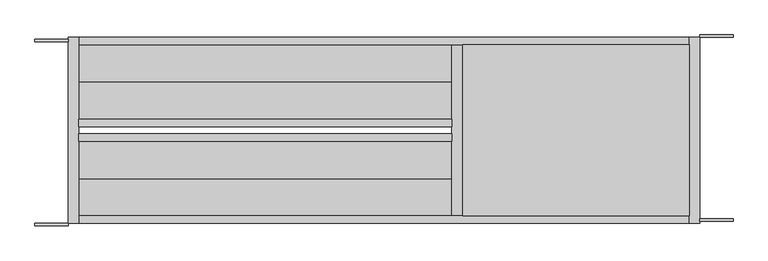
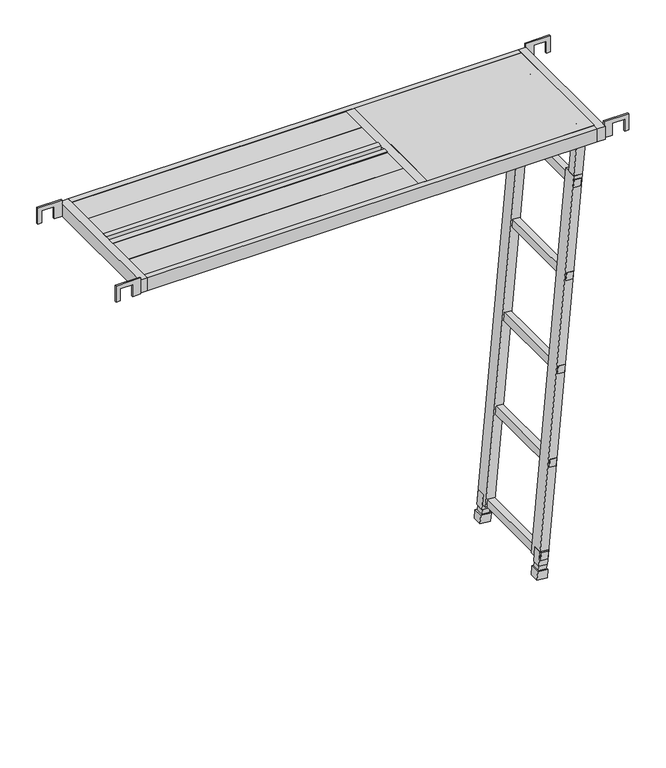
"""IFC4 building model written with IfcOpenShell, lengths in millimetres: proxy geometry, AK_アルミハッチ式布板HF-518HT(タラップ式)_軽 : AK_アルミハッチ式布板HF-518HT(タラップ式)_軽."""

from ifc_helpers import new_model, si_unit, point, frame, origin, place, context, project, spatial, polyline, circle_curve, ellipse_curve, trimmed, outline, extrude, source, transform, mapped, element, save
from ifc_brep_helpers import plane_surface, cylinder_surface, revolved_surface, advanced_brep


def generic_models_8c229552(model_context):
    return source(origin(), model_context, "Body", "SolidModel", [
        extrude(outline(polyline([(37.5, 1762.5), (-24.1, 1762.5), (-24.1, 1792.0), (22.0, 1792.0), (22.0, 1837.0), (-24.1, 1837.0), (-24.1, 1852.0), (37.5, 1852.0), (37.5, 1762.5)])), frame((0.0, 12.0, 0.0), z_axis=(0.0, 1.0, 0.0), x_axis=(0.0, 0.0, 1.0)), (0.0, 0.0, 1.0), 6.0),
        extrude(outline(polyline([(37.5, 1762.5), (-24.1, 1762.5), (-24.1, 1792.0), (22.0, 1792.0), (22.0, 1837.0), (-24.1, 1837.0), (-24.1, 1852.0), (37.5, 1852.0), (37.5, 1762.5)])), frame((0.0, 506.0, 0.0), z_axis=(0.0, 1.0, 0.0), x_axis=(0.0, 0.0, 1.0)), (0.0, 0.0, 1.0), 6.0),
        extrude(outline(polyline([(37.5, -23.0), (-24.1, -23.0), (-24.1, -8.0), (22.0, -8.0), (22.0, 37.0), (-24.1, 37.0), (-24.1, 66.5), (37.5, 66.5), (37.5, -23.0)])), frame((0.0, 0.0, 0.0), z_axis=(0.0, 1.0, 0.0), x_axis=(0.0, 0.0, 1.0)), (0.0, 0.0, 1.0), 6.0),
        extrude(outline(polyline([(37.5, -23.0), (-24.1, -23.0), (-24.1, -8.0), (22.0, -8.0), (22.0, 37.0), (-24.1, 37.0), (-24.1, 66.5), (37.5, 66.5), (37.5, -23.0)])), frame((0.0, 494.0, 0.0), z_axis=(0.0, 1.0, 0.0), x_axis=(0.0, 0.0, 1.0)), (0.0, 0.0, 1.0), 6.0),
        advanced_brep(
        [(1715.4537998, 26.0, 0.0), (1707.4537998, 26.0, 0.0), (1707.4537998, 90.1689973, 0.0), (1715.4537998, 90.1689973, 0.0), (1727.8086099, 102.5238074, 0.0), (1727.8086099, 110.5238074, 0.0), (1742.8086099, 102.5238074, 0.0), (1742.8086099, 110.5238074, 0.0)],
        [
            (0, 1, circle_curve(frame((1711.4537998, 26.0, 0.0), z_axis=(0.0, -1.0, 0.0), x_axis=(-1.0, 0.0, 0.0)), 4.0)),
            (1, 0, circle_curve(frame((1711.4537998, 26.0, 0.0), z_axis=(0.0, -1.0, 0.0), x_axis=(-1.0, 0.0, 0.0)), 4.0)),
            (1, 2),
            (2, 3, circle_curve(frame((1711.4537998, 90.1689973, 0.0), z_axis=(0.0, -1.0, 0.0), x_axis=(-1.0, 0.0, 0.0)), 4.0)),
            (3, 0),
            (3, 2, circle_curve(frame((1711.4537998, 90.1689973, 0.0), z_axis=(0.0, -1.0, 0.0), x_axis=(-1.0, 0.0, 0.0)), 4.0)),
            (4, 3, circle_curve(frame((1727.8086099, 90.1689973, 0.0), z_axis=(0.0, 0.0, 1.0), x_axis=(-1.0, 0.0, 0.0)), 12.35481)),
            (2, 5, circle_curve(frame((1727.8086099, 90.1689973, 0.0), z_axis=(0.0, 0.0, -1.0), x_axis=(-1.0, 0.0, 0.0)), 20.35481)),
            (5, 4, circle_curve(frame((1727.8086099, 106.5238074, 0.0), z_axis=(-1.0, 0.0, 0.0), x_axis=(0.0, 1.0, 0.0)), 4.0)),
            (4, 5, circle_curve(frame((1727.8086099, 106.5238074, 0.0), z_axis=(-1.0, 0.0, 0.0), x_axis=(0.0, 1.0, 0.0)), 4.0)),
            (6, 7, circle_curve(frame((1742.8086099, 106.5238074, 0.0), z_axis=(1.0, 0.0, 0.0), x_axis=(0.0, 1.0, 0.0)), 4.0)),
            (7, 6, circle_curve(frame((1742.8086099, 106.5238074, 0.0), z_axis=(1.0, 0.0, 0.0), x_axis=(0.0, 1.0, 0.0)), 4.0)),
            (5, 7),
            (6, 4),
        ],
        [
            plane_surface(frame((1711.4537998, 26.0, 0.0), z_axis=(0.0, -1.0, 0.0), x_axis=(0.0, 0.0, 1.0))),
            cylinder_surface(frame((1711.4537998, 26.0, 0.0), z_axis=(0.0, -1.0, 0.0), x_axis=(-1.0, 0.0, 0.0)), 4.0),
            revolved_surface(trimmed(ellipse_curve(frame((1711.4537998, 90.1689973, 0.0), z_axis=(0.0, -1.0, 0.0), x_axis=(-1.0, 0.0, 0.0)), 4.0, 4.0), [point((1707.4537998, 90.1689973, 0.0))], [point((1715.4537998, 90.1689973, 0.0))], True, "CARTESIAN"), (1727.8086099, 90.1689973, 0.0), (0.0, 0.0, -1.0)),
            revolved_surface(trimmed(ellipse_curve(frame((1711.4537998, 90.1689973, 0.0), z_axis=(0.0, -1.0, 0.0), x_axis=(-1.0, 0.0, 0.0)), 4.0, 4.0), [point((1715.4537998, 90.1689973, 0.0))], [point((1707.4537998, 90.1689973, 0.0))], True, "CARTESIAN"), (1727.8086099, 90.1689973, 0.0), (0.0, 0.0, -1.0)),
            plane_surface(frame((1742.8086099, 106.5238074, 0.0), z_axis=(1.0, 0.0, 0.0), x_axis=(0.0, 0.0, 1.0))),
            cylinder_surface(frame((1727.8086099, 106.5238074, 0.0), z_axis=(-1.0, 0.0, 0.0), x_axis=(0.0, 1.0, 0.0)), 4.0),
        ],
        [
            (0, [[1, 2]]),
            (1, [[-2, 3, 4, 5]]),
            (1, [[-1, -5, 6, -3]]),
            (2, [[7, -4, 8, 9]]),
            (3, [[-8, -6, -7, 10]]),
            (4, [[11, 12]]),
            (5, [[-9, 13, -11, 14]]),
            (5, [[-10, -14, -12, -13]]),
        ],
    ),
        advanced_brep(
        [(1707.4537998, 486.0, 0.0), (1715.4537998, 486.0, 0.0), (1707.4537998, 421.8310027, 0.0), (1715.4537998, 421.8310027, 0.0), (1727.8086099, 409.4761926, 0.0), (1727.8086099, 401.4761926, 0.0), (1742.8086099, 401.4761926, 0.0), (1742.8086099, 409.4761926, 0.0)],
        [
            (0, 1, circle_curve(frame((1711.4537998, 486.0, 0.0), z_axis=(0.0, 1.0, 0.0), x_axis=(1.0, 0.0, 0.0)), 4.0)),
            (1, 0, circle_curve(frame((1711.4537998, 486.0, 0.0), z_axis=(0.0, 1.0, 0.0), x_axis=(1.0, 0.0, 0.0)), 4.0)),
            (0, 2),
            (2, 3, circle_curve(frame((1711.4537998, 421.8310027, 0.0), z_axis=(0.0, 1.0, 0.0), x_axis=(1.0, 0.0, 0.0)), 4.0)),
            (3, 1),
            (3, 2, circle_curve(frame((1711.4537998, 421.8310027, 0.0), z_axis=(0.0, 1.0, 0.0), x_axis=(1.0, 0.0, 0.0)), 4.0)),
            (4, 3, circle_curve(frame((1727.8086099, 421.8310027, 0.0), z_axis=(0.0, 0.0, -1.0), x_axis=(-1.0, 0.0, 0.0)), 12.35481)),
            (2, 5, circle_curve(frame((1727.8086099, 421.8310027, 0.0), z_axis=(0.0, 0.0, 1.0), x_axis=(-1.0, 0.0, 0.0)), 20.35481)),
            (5, 4, circle_curve(frame((1727.8086099, 405.4761926, 0.0), z_axis=(-1.0, 0.0, 0.0), x_axis=(0.0, 1.0, 0.0)), 4.0)),
            (4, 5, circle_curve(frame((1727.8086099, 405.4761926, 0.0), z_axis=(-1.0, 0.0, 0.0), x_axis=(0.0, 1.0, 0.0)), 4.0)),
            (6, 7, circle_curve(frame((1742.8086099, 405.4761926, 0.0), z_axis=(1.0, 0.0, 0.0), x_axis=(0.0, 1.0, 0.0)), 4.0)),
            (7, 6, circle_curve(frame((1742.8086099, 405.4761926, 0.0), z_axis=(1.0, 0.0, 0.0), x_axis=(0.0, 1.0, 0.0)), 4.0)),
            (5, 6),
            (7, 4),
        ],
        [
            plane_surface(frame((1711.4537998, 486.0, 0.0), z_axis=(0.0, 1.0, 0.0), x_axis=(0.0, 0.0, 1.0))),
            cylinder_surface(frame((1711.4537998, 486.0, 0.0), z_axis=(0.0, 1.0, 0.0), x_axis=(1.0, 0.0, 0.0)), 4.0),
            revolved_surface(trimmed(ellipse_curve(frame((1711.4537998, 421.8310027, 0.0), z_axis=(0.0, 1.0, 0.0), x_axis=(1.0, 0.0, 0.0)), 4.0, 4.0), [point((1707.4537998, 421.8310027, 0.0))], [point((1715.4537998, 421.8310027, 0.0))], True, "CARTESIAN"), (1727.8086099, 421.8310027, 0.0), (0.0, 0.0, 1.0)),
            revolved_surface(trimmed(ellipse_curve(frame((1711.4537998, 421.8310027, 0.0), z_axis=(0.0, 1.0, 0.0), x_axis=(1.0, 0.0, 0.0)), 4.0, 4.0), [point((1715.4537998, 421.8310027, 0.0))], [point((1707.4537998, 421.8310027, 0.0))], True, "CARTESIAN"), (1727.8086099, 421.8310027, 0.0), (0.0, 0.0, 1.0)),
            plane_surface(frame((1742.8086099, 405.4761926, 0.0), z_axis=(1.0, 0.0, 0.0), x_axis=(0.0, 0.0, 1.0))),
            cylinder_surface(frame((1727.8086099, 405.4761926, 0.0), z_axis=(-1.0, 0.0, 0.0), x_axis=(0.0, 1.0, 0.0)), 4.0),
        ],
        [
            (0, [[1, 2]]),
            (1, [[-1, 3, 4, 5]]),
            (1, [[-2, -5, 6, -3]]),
            (2, [[7, -4, 8, 9]]),
            (3, [[-8, -6, -7, 10]]),
            (4, [[11, 12]]),
            (5, [[-9, 13, -12, 14]]),
            (5, [[-10, -14, -11, -13]]),
        ],
    ),
        extrude(outline(polyline([(0.0, 0.0), (36.2320505, 0.0), (36.2320505, -37.6491626), (0.0, -37.6491626), (0.0, 0.0)])), frame((1581.7880686, 453.2223742, -1682.979101), z_axis=(0.08715574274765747, 0.0, 0.9961946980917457), x_axis=(0.0, -1.0, 0.0)), (0.0, 0.0, 1.0), 32.7312455),
        extrude(outline(polyline([(49.0120246, 0.0), (86.6611873, 0.0), (86.6611873, -36.2320505), (49.0120246, -36.2320505), (49.0120246, 0.0)])), frame((1630.6135877, 58.7776258, -1687.2507804), z_axis=(0.08715574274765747, 0.0, 0.9961946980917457), x_axis=(-0.9961946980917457, 0.0, 0.08715574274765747)), (0.0, 0.0, 1.0), 32.7312455),
        extrude(outline(polyline([(0.0, 0.0), (28.1293092, 0.0), (28.1293092, -28.1661485), (0.0, -28.1661485), (0.0, 0.0)])), frame((1580.7901708, 449.0672328, -1650.0355227), z_axis=(0.08715574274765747, 0.0, 0.9961946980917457), x_axis=(0.0, -1.0, 0.0)), (0.0, 0.0, 1.0), 19.3575202),
        extrude(outline(polyline([(20.3901804, 0.0), (48.5563289, 0.0), (48.5563289, -28.1293092), (20.3901804, -28.1293092), (20.3901804, 0.0)])), frame((1601.1027604, 62.9327672, -1651.812644), z_axis=(0.08715574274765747, 0.0, 0.9961946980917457), x_axis=(-0.9961946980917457, 0.0, 0.08715574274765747)), (0.0, 0.0, 1.0), 17.5079813),
        extrude(outline(polyline([(0.7501309, 0.0), (32.7501409, 0.0), (32.7501409, -31.99998), (0.7501309, -31.99998), (0.7501309, 0.0)])), frame((1584.3535869, 451.7501309, -1630.9158185), z_axis=(0.08715574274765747, 0.0, 0.9961946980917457), x_axis=(0.0, -1.0, 0.0)), (0.0, 0.0, 1.0), 54.6552594),
        extrude(outline(polyline([(25.5018664, 0.0), (57.5018464, 0.0), (57.5018464, -32.00001), (25.5018664, -32.00001), (25.5018664, 0.0)])), frame((1609.5972131, 61.0, -1634.9809534), z_axis=(0.08715574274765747, 0.0, 0.9961946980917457), x_axis=(-0.9961946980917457, 0.0, 0.08715574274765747)), (0.0, 0.0, 1.0), 54.6071861),
        extrude(outline(polyline([(0.0, 0.0), (0.0, -32.0919881), (-31.99998, -32.0919881), (-31.99998, 0.0), (0.0, 0.0)])), frame((1679.8863585, 61.0, -171.8126482), z_axis=(0.08715574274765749, 0.0, 0.9961946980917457), x_axis=(-0.9961946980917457, 0.0, 0.08715574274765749)), (0.0, 0.0, 1.0), 194.8805599),
        extrude(outline(polyline([(0.0, 0.0), (0.0, -31.99998), (-32.0919881, -31.99998), (-32.0919881, 0.0), (0.0, 0.0)])), frame((1679.8863585, 451.0, -171.8126482), z_axis=(0.08715574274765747, 0.0, 0.9961946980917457), x_axis=(0.0, 1.0, 0.0)), (0.0, 0.0, 1.0), 194.8805599),
        extrude(outline(polyline([(-1580.7506103, 1561.9485296), (-1609.8394751, 1559.4035566), (-1612.0358208, 1584.5076764), (-1582.946918, 1587.0526204), (-1580.7506103, 1561.9485296)])), frame((0.0, 60.0, 0.0), z_axis=(0.0, 1.0, 0.0), x_axis=(0.0, 0.0, 1.0)), (0.0, 0.0, 1.0), 392.0),
        extrude(outline(polyline([(-1231.9807912, 1592.4530396), (-1261.0699793, 1589.9080412), (-1263.2662927, 1615.0121638), (-1234.1771313, 1617.5571276), (-1231.9807912, 1592.4530396)])), frame((0.0, 60.0, 0.0), z_axis=(0.0, 1.0, 0.0), x_axis=(0.0, 0.0, 1.0)), (0.0, 0.0, 1.0), 392.0),
        extrude(outline(polyline([(-883.4143202, 1622.9575496), (-912.503185, 1620.4125766), (-914.6995307, 1645.5166964), (-885.6106279, 1648.0616404), (-883.4143202, 1622.9575496)])), frame((0.0, 60.0, 0.0), z_axis=(0.0, 1.0, 0.0), x_axis=(0.0, 0.0, 1.0)), (0.0, 0.0, 1.0), 392.0),
        extrude(outline(polyline([(-563.7336893, 1650.9170612), (-565.9300027, 1676.0211838), (-536.8408412, 1678.5661476), (-534.6445011, 1653.4620596), (-563.7336893, 1650.9170612)])), frame((0.0, 60.0, 0.0), z_axis=(0.0, 1.0, 0.0), x_axis=(0.0, 0.0, 1.0)), (0.0, 0.0, 1.0), 392.0),
        extrude(outline(polyline([(-217.3627709, 1703.6332196), (-188.2738686, 1706.1781688), (-186.0775608, 1681.074078), (-215.166428, 1678.5291319), (-217.3627709, 1703.6332196)])), frame((0.0, 60.0, 0.0), z_axis=(0.0, 1.0, 0.0), x_axis=(0.0, 0.0, 1.0)), (0.0, 0.0, 1.0), 392.0),
        extrude(outline(polyline([(0.0, -32.0002925), (0.0, 0.0), (51.0, 0.0), (51.0, -32.0002925), (0.0, -32.0002925)])), frame((1554.1810117, 400.0, -1608.6313368), z_axis=(0.08715574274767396, 0.0, 0.9961946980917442), x_axis=(0.0, 1.0, 0.0)), (0.0, 0.0, 1.0), 1442.2454792),
        extrude(outline(polyline([(0.0, -31.99998), (0.0, 0.0), (51.0, 0.0), (51.0, -31.99998), (0.0, -31.99998)])), frame((1554.1810117, 61.0, -1608.6313368), z_axis=(0.08715574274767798, 0.0, 0.9961946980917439), x_axis=(0.0, 1.0, 0.0)), (0.0, 0.0, 1.0), 1442.2454792),
        extrude(outline(polyline([(1734.5, 486.0), (1734.5, 26.0), (1126.5, 26.0), (1126.5, 486.0), (1734.5, 486.0)])), frame((0.0, 0.0, 22.5), z_axis=(0.0, 0.0, 1.0), x_axis=(1.0, 0.0, 0.0)), (0.0, 0.0, 1.0), 2.5),
        extrude(outline(polyline([(1126.5, 26.0), (1096.30002, 26.0), (1096.30002, 486.0), (1126.5, 486.0), (1126.5, 26.0)])), frame((0.0, 0.0, -20.0), z_axis=(0.0, 0.0, 1.0), x_axis=(1.0, 0.0, 0.0)), (0.0, 0.0, 1.0), 44.1),
        extrude(outline(polyline([(1096.30002, 486.0), (1096.30002, 386.0), (94.5, 386.0), (94.5, 486.0), (1096.30002, 486.0)])), frame((0.0, 0.0, 17.5), z_axis=(0.0, 0.0, 1.0), x_axis=(1.0, 0.0, 0.0)), (0.0, 0.0, 1.0), 5.0),
        extrude(outline(polyline([(1096.30002, 386.0), (1096.30002, 286.0), (94.5, 286.0), (94.5, 386.0), (1096.30002, 386.0)])), frame((0.0, 0.0, 17.5), z_axis=(0.0, 0.0, 1.0), x_axis=(1.0, 0.0, 0.0)), (0.0, 0.0, 1.0), 5.0),
        extrude(outline(polyline([(1096.30002, 226.0), (1096.30002, 126.0), (94.5, 126.0), (94.5, 226.0), (1096.30002, 226.0)])), frame((0.0, 0.0, 17.5), z_axis=(0.0, 0.0, 1.0), x_axis=(1.0, 0.0, 0.0)), (0.0, 0.0, 1.0), 5.0),
        extrude(outline(polyline([(1096.30002, 126.0), (1096.30002, 26.0), (94.5, 26.0), (94.5, 126.0), (1096.30002, 126.0)])), frame((0.0, 0.0, 17.5), z_axis=(0.0, 0.0, 1.0), x_axis=(1.0, 0.0, 0.0)), (0.0, 0.0, 1.0), 5.0),
        extrude(outline(polyline([(1096.30002, 286.0), (1096.30002, 266.0), (94.5, 266.0), (94.5, 286.0), (1096.30002, 286.0)])), frame((0.0, 0.0, -25.0), z_axis=(0.0, 0.0, 1.0), x_axis=(1.0, 0.0, 0.0)), (0.0, 0.0, 1.0), 50.0),
        extrude(outline(polyline([(1096.30002, 246.0), (1096.30002, 226.0), (94.5, 226.0), (94.5, 246.0), (1096.30002, 246.0)])), frame((0.0, 0.0, -25.0), z_axis=(0.0, 0.0, 1.0), x_axis=(1.0, 0.0, 0.0)), (0.0, 0.0, 1.0), 50.0),
        extrude(outline(polyline([(1734.5, 6.0), (1734.5, 506.0), (1762.5, 506.0), (1762.5, 6.0), (1734.5, 6.0)])), frame((0.0, 0.0, -25.0), z_axis=(0.0, 0.0, 1.0), x_axis=(1.0, 0.0, 0.0)), (0.0, 0.0, 1.0), 50.0),
        extrude(outline(polyline([(66.5, 6.0), (66.5, 506.0), (94.5, 506.0), (94.5, 6.0), (66.5, 6.0)])), frame((0.0, 0.0, -25.0), z_axis=(0.0, 0.0, 1.0), x_axis=(1.0, 0.0, 0.0)), (0.0, 0.0, 1.0), 50.0),
        extrude(outline(polyline([(1734.5, 506.0), (1734.5, 486.0), (94.5, 486.0), (94.5, 506.0), (1734.5, 506.0)])), frame((0.0, 0.0, -25.0), z_axis=(0.0, 0.0, 1.0), x_axis=(1.0, 0.0, 0.0)), (0.0, 0.0, 1.0), 50.0),
        extrude(outline(polyline([(1734.5, 26.0), (1734.5, 6.0), (94.5, 6.0), (94.5, 26.0), (1734.5, 26.0)])), frame((0.0, 0.0, -25.0), z_axis=(0.0, 0.0, 1.0), x_axis=(1.0, 0.0, 0.0)), (0.0, 0.0, 1.0), 50.0),
    ])


if __name__ == "__main__":
    model = new_model("IFC4")
    model_context = context("Model", 3, world=origin())
    ifc_project = project(units=[si_unit("LENGTHUNIT", "METRE", prefix="MILLI")], contexts=[model_context])
    site = spatial("IfcSite", under=ifc_project)
    building = spatial("IfcBuilding", under=site)
    placement = place(None, origin())
    generic_models_shape = generic_models_8c229552(model_context)
    element("IfcBuildingElementProxy", 1, Name="AK_アルミハッチ式布板HF-518HT(タラップ式)_軽 : AK_アルミハッチ式布板HF-518HT(タラップ式)_軽", ObjectType="AK_アルミハッチ式布板HF-518HT(タラップ式)_軽 : AK_アルミハッチ式布板HF-518HT(タラップ式)_軽", at=placement, inside=building, context=model_context, shape_type="MappedRepresentation", body=[
        mapped(generic_models_shape, transform((0.0, 0.0, 0.0), x_axis=(1.0, 0.0, 0.0), y_axis=(0.0, 1.0, 0.0), z_axis=(0.0, 0.0, 1.0))),
    ])
    save(model, "model.ifc")
